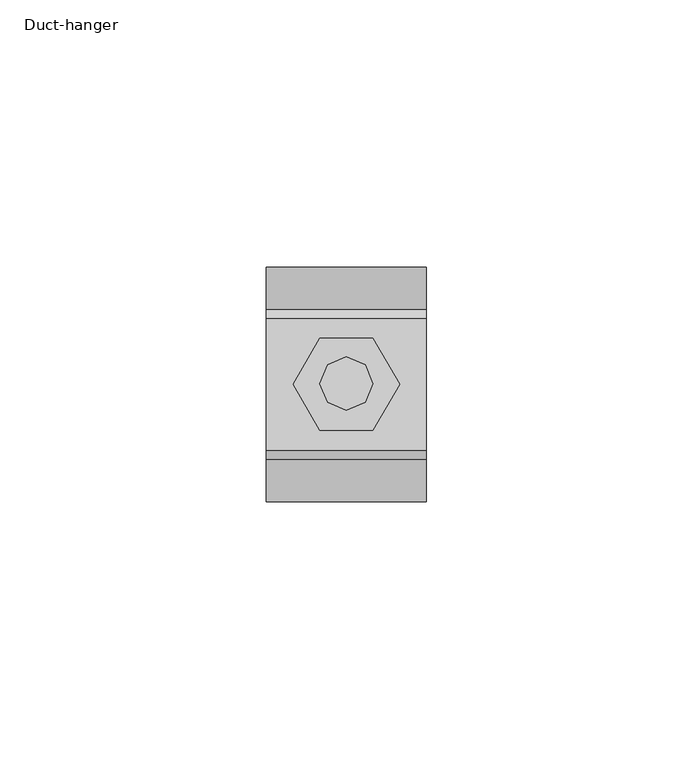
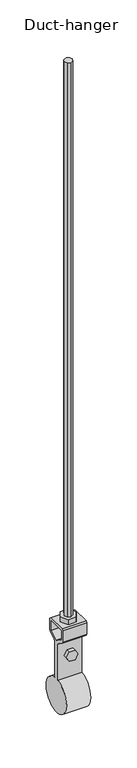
"""IFC4 building model written with IfcOpenShell, lengths in millimetres: proxy geometry, Duct-hanger : Φ44."""

from ifc_helpers import new_model, si_unit, point, frame, frame_2d, origin, place, context, project, spatial, polyline, circle_curve, trimmed, segment, composite_curve, outline, extrude, source, transform, mapped, element, save


def duct_hanger_9e32e5b0(model_context):
    return source(origin(), model_context, "Body", "SweptSolid", [
        extrude(outline(polyline([(3.5351563, 3.5351563), (5.0003052, 0.0), (3.5351563, -3.5351563), (0.0, -5.0), (-3.5354614, -3.5351563), (-5.0, 0.0), (-3.5354614, 3.5351563), (0.0, 5.0), (3.5351563, 3.5351563)])), frame((0.0, 0.0, -738.3984901), z_axis=(0.0, 0.0, 1.0), x_axis=(1.0, 0.0, 0.0)), (0.0, 0.0, 1.0), 738.3984901),
        extrude(outline(polyline([(5.0, 8.659668), (10.0, 0.0), (5.0, -8.659668), (-5.0, -8.659668), (-10.0, 0.0), (-5.0, 8.659668), (5.0, 8.659668)])), frame((0.0, 0.0, -738.3984901), z_axis=(0.0, 0.0, 1.0), x_axis=(1.0, 0.0, 0.0)), (0.0, 0.0, 1.0), 6.6101074),
        extrude(outline(polyline([(-775.4138198, -3.5931396), (-781.6372695, -7.1862793), (-787.8607193, -3.5931396), (-787.8607193, 3.5931396), (-781.6372695, 7.1862793), (-775.4138198, 3.5931396), (-775.4138198, -3.5931396)])), frame((0.0, -8.2446289, 0.0), z_axis=(0.0, 1.0, 0.0), x_axis=(0.0, 0.0, 1.0)), (0.0, 0.0, 1.0), 16.4892578),
        extrude(outline(composite_curve([segment(polyline([(14.0234375, -740.0671913), (14.0234375, -754.7168495), (12.8845215, -756.7831947), (4.6337891, -761.9910194), (3.494873, -764.057975), (3.494873, -811.6372695)]), True, "CONTINUOUS"), segment(trimmed(circle_curve(frame_2d((0.0, -833.3579017)), 22.0), [point((3.494873, -811.6372695))], [point((-3.494873, -811.6372695))], False, "CARTESIAN"), True, "CONTINUOUS"), segment(polyline([(-3.494873, -811.6372695), (-3.494873, -764.057975), (-4.6337891, -761.9910194), (-12.8845215, -756.7831947), (-14.0234375, -754.7168495), (-14.0234375, -740.0671913), (-12.3547363, -738.3984901), (12.3547363, -738.3984901), (14.0234375, -740.0671913)]), True, "CONTINUOUS")], self_intersect=False), holes=[polyline([(0.0, -760.6648664), (10.7531738, -753.8782264), (10.7531738, -741.6519691), (-10.7531738, -741.6519691), (-10.7531738, -753.8782264), (0.0, -760.6648664)])]), frame((-15.0, 0.0, 0.0), z_axis=(1.0, 0.0, 0.0), x_axis=(0.0, 1.0, 0.0)), (0.0, 0.0, 1.0), 30.0),
    ])


if __name__ == "__main__":
    model = new_model("IFC4")
    model_context = context("Model", 3, world=origin())
    ifc_project = project(units=[si_unit("LENGTHUNIT", "METRE", prefix="MILLI")], contexts=[model_context])
    site = spatial("IfcSite", under=ifc_project)
    building = spatial("IfcBuilding", under=site)
    placement = place(None, origin())
    duct_hanger_shape = duct_hanger_9e32e5b0(model_context)
    element("IfcBuildingElementProxy", 1, Name="Duct-hanger : Φ44", ObjectType="Duct-hanger : Φ44", at=placement, inside=building, context=model_context, shape_type="MappedRepresentation", body=[
        mapped(duct_hanger_shape, transform((0.0, 0.0, 0.0), x_axis=(1.0, 0.0, 0.0), y_axis=(0.0, 1.0, 0.0), z_axis=(0.0, 0.0, 1.0))),
    ])
    save(model, "model.ifc")
